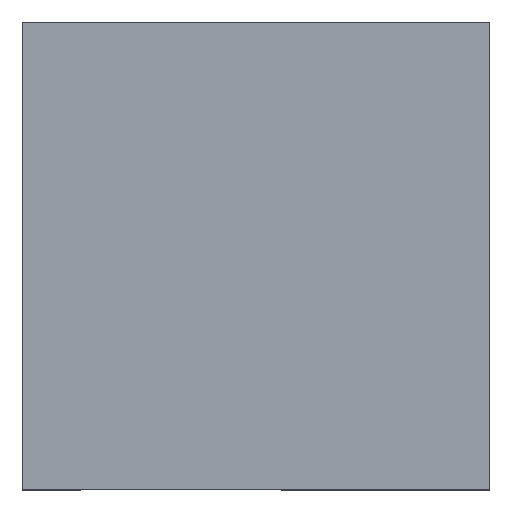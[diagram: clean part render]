
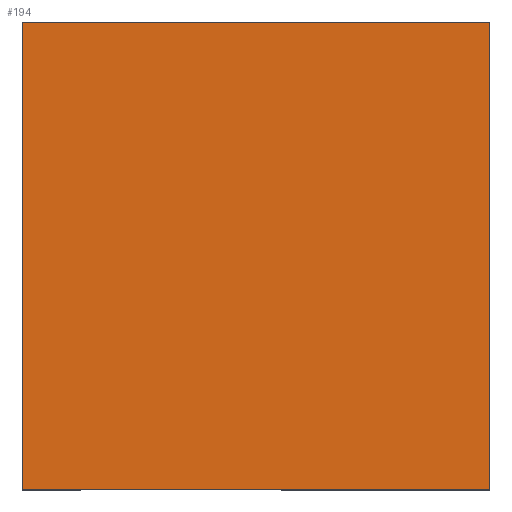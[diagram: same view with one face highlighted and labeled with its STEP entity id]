
A CAD part, top view. The second image highlights one B-rep face of the part: STEP entity #194.
In plain terms, the highlighted planar face has unit normal (0, 0, 1).
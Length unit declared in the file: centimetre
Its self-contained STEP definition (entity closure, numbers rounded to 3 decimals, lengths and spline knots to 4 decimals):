
#12 = VERTEX_POINT ( 'NONE', #37 ) ;
#14 = ORIENTED_EDGE ( 'NONE', *, *, #448, .T. ) ;
#18 = AXIS2_PLACEMENT_3D ( 'NONE', #434, #170, #496 ) ;
#21 = DIRECTION ( 'NONE',  ( -1., 0., 0. ) ) ;
#27 = CARTESIAN_POINT ( 'NONE',  ( 1000., 1000., 1000. ) ) ;
#37 = CARTESIAN_POINT ( 'NONE',  ( 1000., 0., 1000. ) ) ;
#39 = CARTESIAN_POINT ( 'NONE',  ( 0., 0., 1000. ) ) ;
#57 = VERTEX_POINT ( 'NONE', #27 ) ;
#58 = LINE ( 'NONE', #138, #485 ) ;
#72 = VECTOR ( 'NONE', #347, 100. ) ;
#96 = EDGE_CURVE ( 'NONE', #57, #386, #178, .T. ) ;
#108 = EDGE_CURVE ( 'NONE', #386, #525, #58, .T. ) ;
#136 = FACE_OUTER_BOUND ( 'NONE', #408, .T. ) ;
#138 = CARTESIAN_POINT ( 'NONE',  ( 0., 1000., 1000. ) ) ;
#141 = CARTESIAN_POINT ( 'NONE',  ( 0., 1000., 1000. ) ) ;
#170 = DIRECTION ( 'NONE',  ( 0., 0., 1. ) ) ;
#175 = EDGE_CURVE ( 'NONE', #525, #12, #473, .T. ) ;
#178 = LINE ( 'NONE', #141, #191 ) ;
#191 = VECTOR ( 'NONE', #21, 100. ) ;
#194 = ADVANCED_FACE ( 'NONE', ( #136 ), #374, .T. ) ;
#215 = DIRECTION ( 'NONE',  ( 1., 0., 0. ) ) ;
#221 = CARTESIAN_POINT ( 'NONE',  ( 0., 0., 1000. ) ) ;
#225 = DIRECTION ( 'NONE',  ( 0., -1., 0. ) ) ;
#232 = CARTESIAN_POINT ( 'NONE',  ( 1000., 1000., 1000. ) ) ;
#290 = ORIENTED_EDGE ( 'NONE', *, *, #175, .T. ) ;
#347 = DIRECTION ( 'NONE',  ( 0., 1., 0. ) ) ;
#374 = PLANE ( 'NONE',  #18 ) ;
#386 = VERTEX_POINT ( 'NONE', #476 ) ;
#408 = EDGE_LOOP ( 'NONE', ( #497, #290, #14, #427 ) ) ;
#427 = ORIENTED_EDGE ( 'NONE', *, *, #96, .T. ) ;
#434 = CARTESIAN_POINT ( 'NONE',  ( 0., 0., 1000. ) ) ;
#448 = EDGE_CURVE ( 'NONE', #12, #57, #512, .T. ) ;
#467 = VECTOR ( 'NONE', #215, 100. ) ;
#473 = LINE ( 'NONE', #221, #467 ) ;
#476 = CARTESIAN_POINT ( 'NONE',  ( 0., 1000., 1000. ) ) ;
#485 = VECTOR ( 'NONE', #225, 100. ) ;
#496 = DIRECTION ( 'NONE',  ( 1., 0., 0. ) ) ;
#497 = ORIENTED_EDGE ( 'NONE', *, *, #108, .T. ) ;
#512 = LINE ( 'NONE', #232, #72 ) ;
#525 = VERTEX_POINT ( 'NONE', #39 ) ;
